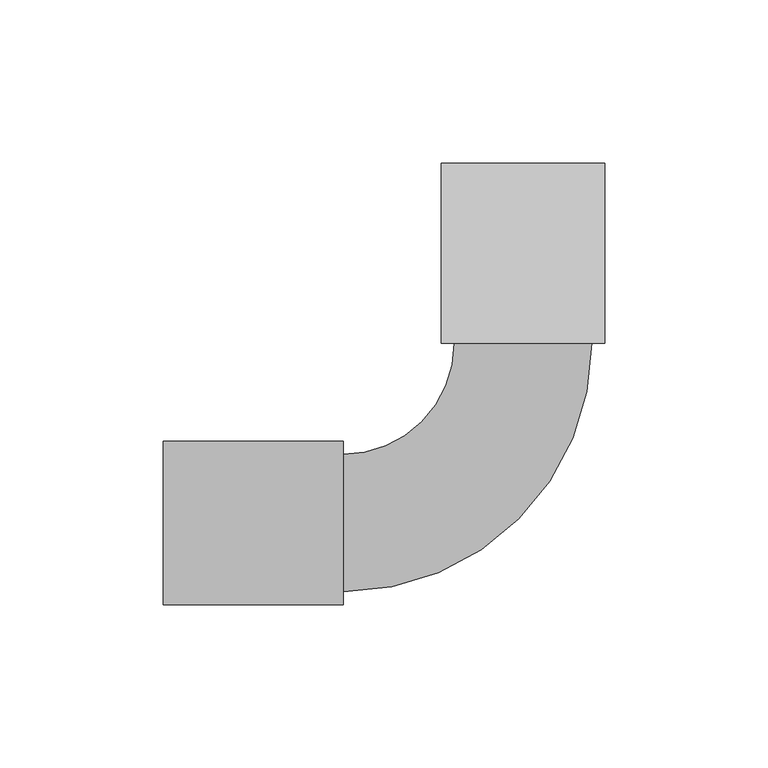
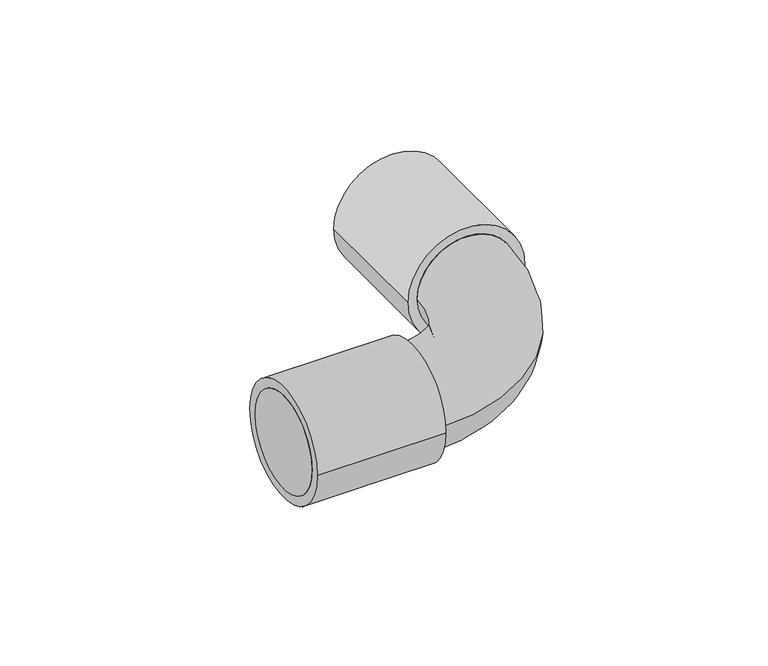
"""IFC4 building model written with IfcOpenShell, lengths in millimetres: cable carrier fitting geometry, Поворот на 90 труба-труба IP65 CS : Поворот на 90 труба-труба IP65 CS."""

from ifc_helpers import new_model, si_unit, point, frame, origin, origin_2d, place, context, project, spatial, circle_curve, ellipse_curve, trimmed, segment, composite_curve, outline, extrude, source, transform, mapped, element, save
from ifc_brep_helpers import plane_surface, cylinder_surface, revolved_surface, advanced_brep


def cable_carrier_fitting_b532b940(model_context):
    return source(origin(), model_context, "Body", "SolidModel", [
        advanced_brep(
        [(-110.0, -21.0, 0.0), (-110.0, 21.0, 0.0), (-55.0, -21.0, 0.0), (-55.0, 21.0, 0.0), (-21.0, 55.0, 0.0), (21.0, 55.0, 0.0), (21.0, 110.0, 0.0), (-21.0, 110.0, 0.0)],
        [
            (0, 1, circle_curve(frame((-110.0, 0.0, 0.0), z_axis=(-1.0, 0.0, 0.0), x_axis=(0.0, 1.0, 0.0)), 21.0)),
            (1, 0, circle_curve(frame((-110.0, 0.0, 0.0), z_axis=(-1.0, 0.0, 0.0), x_axis=(0.0, 1.0, 0.0)), 21.0)),
            (0, 2),
            (2, 3, circle_curve(frame((-55.0, 0.0, 0.0), z_axis=(-1.0, 0.0, 0.0), x_axis=(0.0, 1.0, 0.0)), 21.0)),
            (3, 1),
            (3, 2, circle_curve(frame((-55.0, 0.0, 0.0), z_axis=(-1.0, 0.0, 0.0), x_axis=(0.0, 1.0, 0.0)), 21.0)),
            (4, 3, circle_curve(frame((-55.0, 55.0, 0.0), z_axis=(0.0, 0.0, -1.0), x_axis=(0.0, -1.0, 0.0)), 34.0)),
            (2, 5, circle_curve(frame((-55.0, 55.0, 0.0), z_axis=(0.0, 0.0, 1.0), x_axis=(0.0, -1.0, 0.0)), 76.0)),
            (5, 4, circle_curve(frame((0.0, 55.0, 0.0), z_axis=(0.0, -1.0, 0.0), x_axis=(-1.0, 0.0, 0.0)), 21.0)),
            (4, 5, circle_curve(frame((0.0, 55.0, 0.0), z_axis=(0.0, -1.0, 0.0), x_axis=(-1.0, 0.0, 0.0)), 21.0)),
            (6, 7, circle_curve(frame((0.0, 110.0, 0.0), z_axis=(0.0, 1.0, 0.0), x_axis=(-1.0, 0.0, 0.0)), 21.0)),
            (7, 6, circle_curve(frame((0.0, 110.0, 0.0), z_axis=(0.0, 1.0, 0.0), x_axis=(-1.0, 0.0, 0.0)), 21.0)),
            (5, 6),
            (7, 4),
        ],
        [
            plane_surface(frame((-110.0, 0.0, 0.0), z_axis=(-1.0, 0.0, 0.0), x_axis=(0.0, 0.0, 1.0))),
            cylinder_surface(frame((-110.0, 0.0, 0.0), z_axis=(-1.0, 0.0, 0.0), x_axis=(0.0, 1.0, 0.0)), 21.0),
            revolved_surface(trimmed(ellipse_curve(frame((-55.0, 0.0, 0.0), z_axis=(-1.0, 0.0, 0.0), x_axis=(0.0, 1.0, 0.0)), 21.0, 21.0), [point((-55.0, -21.0, 0.0))], [point((-55.0, 21.0, 0.0))], True, "CARTESIAN"), (-55.0, 55.0, 0.0), (0.0, 0.0, 1.0)),
            revolved_surface(trimmed(ellipse_curve(frame((-55.0, 0.0, 0.0), z_axis=(-1.0, 0.0, 0.0), x_axis=(0.0, 1.0, 0.0)), 21.0, 21.0), [point((-55.0, 21.0, 0.0))], [point((-55.0, -21.0, 0.0))], True, "CARTESIAN"), (-55.0, 55.0, 0.0), (0.0, 0.0, 1.0)),
            plane_surface(frame((0.0, 110.0, 0.0), z_axis=(0.0, 1.0, 0.0), x_axis=(0.0, 0.0, 1.0))),
            cylinder_surface(frame((0.0, 55.0, 0.0), z_axis=(0.0, -1.0, 0.0), x_axis=(-1.0, 0.0, 0.0)), 21.0),
        ],
        [
            (0, [[1, 2]]),
            (1, [[-1, 3, 4, 5]]),
            (1, [[-2, -5, 6, -3]]),
            (2, [[7, -4, 8, 9]]),
            (3, [[-8, -6, -7, 10]]),
            (4, [[11, 12]]),
            (5, [[-9, 13, -12, 14]]),
            (5, [[-10, -14, -11, -13]]),
        ],
    ),
        extrude(outline(composite_curve([segment(trimmed(circle_curve(origin_2d(), 25.0), [point((-25.0, 0.0))], [point((25.0, 0.0))], False, "CARTESIAN"), True, "CONTINUOUS"), segment(trimmed(circle_curve(origin_2d(), 25.0), [point((25.0, 0.0))], [point((-25.0, 0.0))], False, "CARTESIAN"), True, "CONTINUOUS")], self_intersect=False)), frame((-110.0, 0.0, 0.0), z_axis=(1.0, 0.0, 0.0), x_axis=(0.0, 1.0, 0.0)), (0.0, 0.0, 1.0), 55.0),
        extrude(outline(composite_curve([segment(trimmed(circle_curve(origin_2d(), 25.0), [point((0.0, 25.0))], [point((0.0, -25.0))], False, "CARTESIAN"), True, "CONTINUOUS"), segment(trimmed(circle_curve(origin_2d(), 25.0), [point((0.0, -25.0))], [point((0.0, 25.0))], False, "CARTESIAN"), True, "CONTINUOUS")], self_intersect=False)), frame((0.0, 55.0, 0.0), z_axis=(0.0, 1.0, 0.0), x_axis=(0.0, 0.0, 1.0)), (0.0, 0.0, 1.0), 55.0),
    ])


if __name__ == "__main__":
    model = new_model("IFC4")
    model_context = context("Model", 3, world=origin())
    ifc_project = project(units=[si_unit("LENGTHUNIT", "METRE", prefix="MILLI")], contexts=[model_context])
    site = spatial("IfcSite", under=ifc_project)
    building = spatial("IfcBuilding", under=site)
    placement = place(None, origin())
    cable_carrier_fitting_shape = cable_carrier_fitting_b532b940(model_context)
    element("IfcCableCarrierFitting", 1, ObjectType="Поворот на 90 труба-труба IP65 CS : Поворот на 90 труба-труба IP65 CS", at=placement, inside=building, context=model_context, shape_type="MappedRepresentation", body=[
        mapped(cable_carrier_fitting_shape, transform((0.0, 0.0, 0.0), x_axis=(1.0, 0.0, 0.0), y_axis=(0.0, 1.0, 0.0), z_axis=(0.0, 0.0, 1.0))),
    ])
    save(model, "model.ifc")
